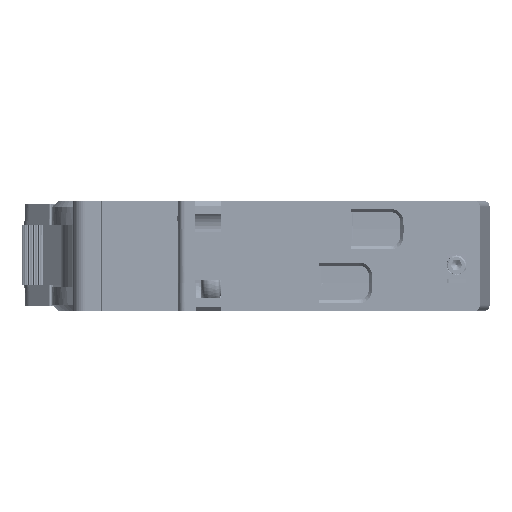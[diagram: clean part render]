
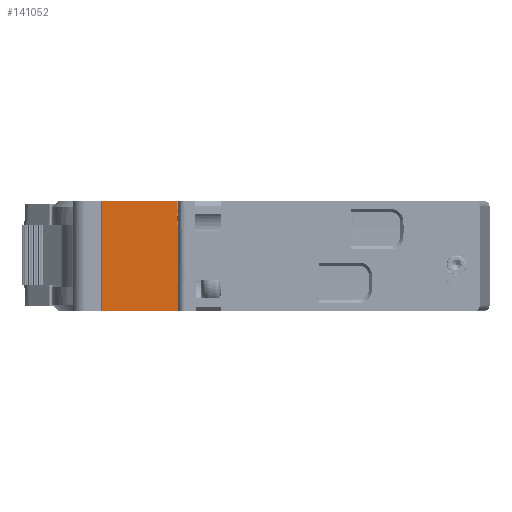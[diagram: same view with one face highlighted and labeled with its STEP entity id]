
A CAD part, left-side view. The second image highlights one B-rep face of the part: STEP entity #141052.
In plain terms, the highlighted planar face has unit normal (-1, 0, 0).
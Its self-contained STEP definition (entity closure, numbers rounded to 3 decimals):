
#1181 = CARTESIAN_POINT ( 'NONE',  ( 24.787, -37.528, -12.004 ) ) ;
#2700 = CARTESIAN_POINT ( 'NONE',  ( 24.787, -36.478, -0.304 ) ) ;
#3914 = LINE ( 'NONE', #2700, #97691 ) ;
#12764 = DIRECTION ( 'NONE',  ( 0., 1., 0. ) ) ;
#13283 = CARTESIAN_POINT ( 'NONE',  ( 24.787, -37.628, -16.504 ) ) ;
#13606 = VECTOR ( 'NONE', #28720, 1000. ) ;
#14544 = CARTESIAN_POINT ( 'NONE',  ( 24.787, -50.799, -16.504 ) ) ;
#14799 = CARTESIAN_POINT ( 'NONE',  ( 24.787, -36.628, -12.004 ) ) ;
#16744 = VERTEX_POINT ( 'NONE', #51965 ) ;
#23844 = LINE ( 'NONE', #51748, #73185 ) ;
#27647 = CARTESIAN_POINT ( 'NONE',  ( 24.787, -36.628, -16.504 ) ) ;
#28720 = DIRECTION ( 'NONE',  ( 0., -1., 0. ) ) ;
#34746 = ORIENTED_EDGE ( 'NONE', *, *, #45068, .T. ) ;
#35646 = VERTEX_POINT ( 'NONE', #124014 ) ;
#43173 = LINE ( 'NONE', #13283, #127058 ) ;
#43738 = CARTESIAN_POINT ( 'NONE',  ( 24.787, -50.799, -0.304 ) ) ;
#45068 = EDGE_CURVE ( 'NONE', #192620, #175393, #114934, .T. ) ;
#45731 = ORIENTED_EDGE ( 'NONE', *, *, #112973, .T. ) ;
#46632 = VERTEX_POINT ( 'NONE', #144899 ) ;
#51748 = CARTESIAN_POINT ( 'NONE',  ( 24.787, -50.799, 0.996 ) ) ;
#51965 = CARTESIAN_POINT ( 'NONE',  ( 24.787, -36.455, 0.996 ) ) ;
#57164 = AXIS2_PLACEMENT_3D ( 'NONE', #14544, #107591, #141995 ) ;
#66264 = CARTESIAN_POINT ( 'NONE',  ( 24.787, -24.578, -16.504 ) ) ;
#73185 = VECTOR ( 'NONE', #176520, 1000. ) ;
#80504 = FACE_OUTER_BOUND ( 'NONE', #100175, .T. ) ;
#91692 = EDGE_CURVE ( 'NONE', #35646, #16744, #3914, .T. ) ;
#94124 = ORIENTED_EDGE ( 'NONE', *, *, #91692, .T. ) ;
#97478 = LINE ( 'NONE', #136968, #13606 ) ;
#97691 = VECTOR ( 'NONE', #161154, 1000. ) ;
#100175 = EDGE_LOOP ( 'NONE', ( #137298, #190331, #135679, #94124, #123224, #109617, #45731, #34746 ) ) ;
#107591 = DIRECTION ( 'NONE',  ( -1., 0., 0. ) ) ;
#108407 = CARTESIAN_POINT ( 'NONE',  ( 24.787, -24.578, -16.504 ) ) ;
#109376 = LINE ( 'NONE', #43738, #190871 ) ;
#109617 = ORIENTED_EDGE ( 'NONE', *, *, #124058, .T. ) ;
#112973 = EDGE_CURVE ( 'NONE', #185812, #192620, #43173, .T. ) ;
#114934 = LINE ( 'NONE', #162436, #203836 ) ;
#117484 = VECTOR ( 'NONE', #177197, 1000. ) ;
#123224 = ORIENTED_EDGE ( 'NONE', *, *, #161588, .T. ) ;
#123857 = CARTESIAN_POINT ( 'NONE',  ( 24.787, -24.578, 0.996 ) ) ;
#124014 = CARTESIAN_POINT ( 'NONE',  ( 24.787, -36.478, -0.304 ) ) ;
#124058 = EDGE_CURVE ( 'NONE', #154946, #185812, #159439, .T. ) ;
#127058 = VECTOR ( 'NONE', #153189, 1000. ) ;
#132629 = CARTESIAN_POINT ( 'NONE',  ( 24.787, -37.528, -12.004 ) ) ;
#135679 = ORIENTED_EDGE ( 'NONE', *, *, #163371, .T. ) ;
#136968 = CARTESIAN_POINT ( 'NONE',  ( 24.787, -50.799, -12.004 ) ) ;
#137298 = ORIENTED_EDGE ( 'NONE', *, *, #186635, .T. ) ;
#141052 = ADVANCED_FACE ( 'NONE', ( #80504 ), #203454, .T. ) ;
#141995 = DIRECTION ( 'NONE',  ( 0., 1., 0. ) ) ;
#144899 = CARTESIAN_POINT ( 'NONE',  ( 24.787, -37.426, -0.304 ) ) ;
#146552 = DIRECTION ( 'NONE',  ( 0., 0., 1. ) ) ;
#153189 = DIRECTION ( 'NONE',  ( 0., -1., 0. ) ) ;
#154946 = VERTEX_POINT ( 'NONE', #123857 ) ;
#156073 = LINE ( 'NONE', #1181, #193102 ) ;
#159439 = LINE ( 'NONE', #66264, #117484 ) ;
#160381 = EDGE_CURVE ( 'NONE', #189579, #46632, #156073, .T. ) ;
#161154 = DIRECTION ( 'NONE',  ( 0., 0.017, 1. ) ) ;
#161588 = EDGE_CURVE ( 'NONE', #16744, #154946, #23844, .T. ) ;
#162436 = CARTESIAN_POINT ( 'NONE',  ( 24.787, -36.628, -16.504 ) ) ;
#163371 = EDGE_CURVE ( 'NONE', #46632, #35646, #109376, .T. ) ;
#175393 = VERTEX_POINT ( 'NONE', #14799 ) ;
#176520 = DIRECTION ( 'NONE',  ( 0., 1., 0. ) ) ;
#177197 = DIRECTION ( 'NONE',  ( 0., 0., -1. ) ) ;
#185812 = VERTEX_POINT ( 'NONE', #108407 ) ;
#186635 = EDGE_CURVE ( 'NONE', #175393, #189579, #97478, .T. ) ;
#188032 = DIRECTION ( 'NONE',  ( 0., 0.009, 1. ) ) ;
#189579 = VERTEX_POINT ( 'NONE', #132629 ) ;
#190331 = ORIENTED_EDGE ( 'NONE', *, *, #160381, .T. ) ;
#190871 = VECTOR ( 'NONE', #12764, 1000. ) ;
#192620 = VERTEX_POINT ( 'NONE', #27647 ) ;
#193102 = VECTOR ( 'NONE', #188032, 1000. ) ;
#203454 = PLANE ( 'NONE',  #57164 ) ;
#203836 = VECTOR ( 'NONE', #146552, 1000. ) ;
